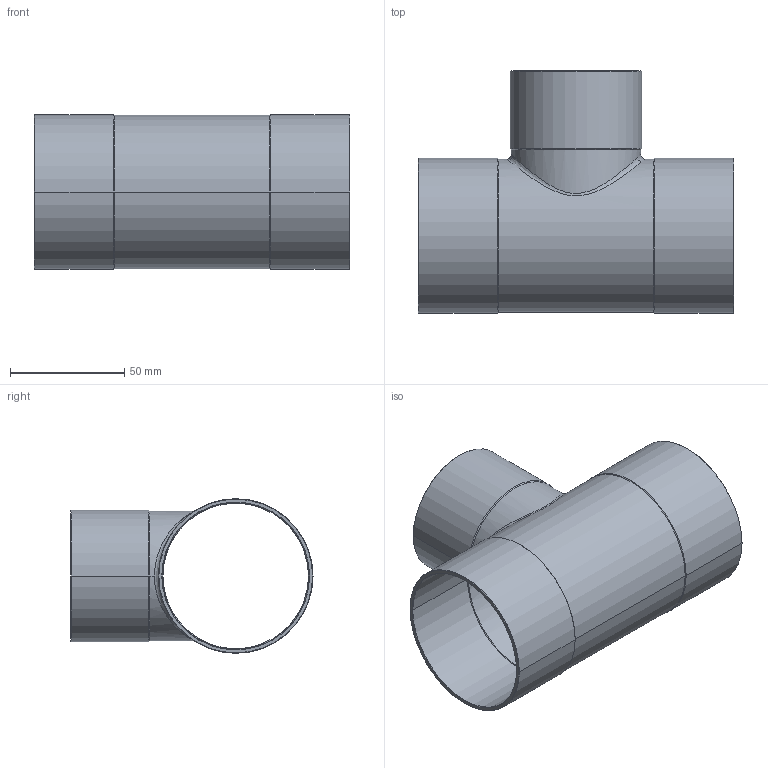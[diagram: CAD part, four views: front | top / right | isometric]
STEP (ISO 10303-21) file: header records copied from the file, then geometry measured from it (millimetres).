
FILE_DESCRIPTION((''),'2;1');
FILE_NAME('G:\Technics\CAD\Bauteile\15130\15130645464.stp','2005-11-02T10:19:59',('boden'),(''),'Autodesk Inventor 8','Autodesk Inventor 8','');
FILE_SCHEMA(('AUTOMOTIVE_DESIGN { 1 0 10303 214 1 1 1 1 }'));
Length unit declared in the file: millimetre
Products named in the file (1): 15130645464
Bounding box: 138 x 105.8 x 67.6 mm (x, y, z)
Volume: 57492.9 mm3; surface area: 68551 mm2
Topology: 1 solids, 1 shells, 49 faces, 108 edges, 60 vertices
Faces by surface type: cone 24, cylinder 20, plane 3, bspline 2
Entity records: 1851 total; most frequent: CARTESIAN_POINT 744, DIRECTION 242, ORIENTED_EDGE 216, EDGE_CURVE 108, AXIS2_PLACEMENT_3D 98, VERTEX_POINT 60, EDGE_LOOP 52, CIRCLE 50
